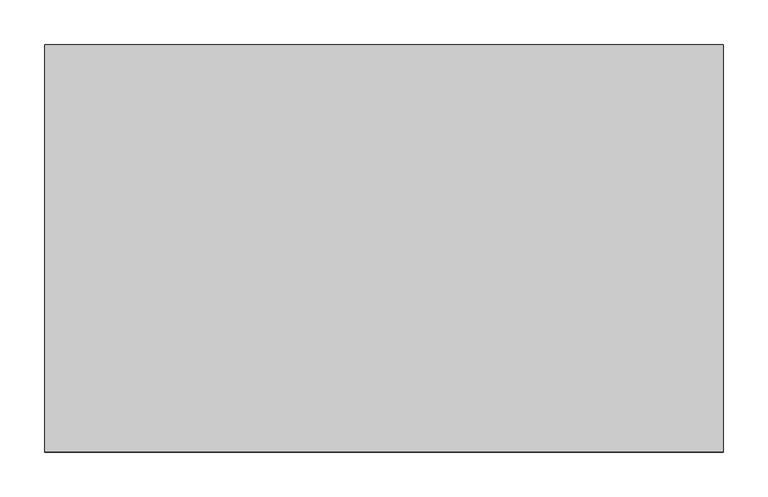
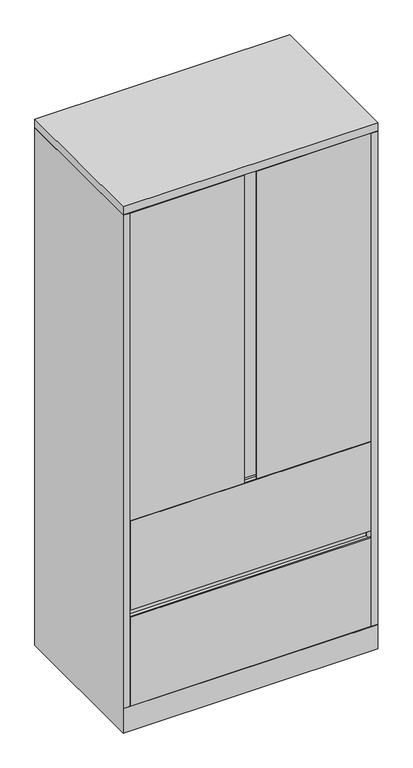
"""IFC4 building model written with IfcOpenShell, lengths in millimetres: furniture geometry, Steelcase - Universal Storage - Cabinet - Combination - Flush Steel : 65 1/2H - 2 Drawers - 18D x 30W."""

import ifcopenshell
import ifcopenshell.guid

model = None  # the IFC model being written
_history = None  # IfcOwnerHistory: only IFC2X3 demands one
_inside = {}  # id of a spatial element -> (the spatial element, [elements in it])
_under = {}  # id of a project, library or spatial element -> (it, [spatial elements below it])
_declared = {}  # id of a project -> (the project, [libraries it declares])
_typed = {}  # id of a type object -> (the type object, [elements of that type])
_made_of = {}  # id of a material, layer set ... -> (it, [elements and type objects made of it])


def new_model(schema):
    """Start an empty IFC model of exactly this schema.

    Asked for "IFC4X3", IfcOpenShell would pick the latest addendum, in which some entities
    have other attributes; the version numbers below select the first issue.
    IFC2X3 requires an IfcOwnerHistory on every rooted entity: one is made here for all.
    """
    global model, _history
    if schema == "IFC4X3":
        model = ifcopenshell.file(schema_version=(4, 3, 0, 0))
    else:
        model = ifcopenshell.file(schema=schema)
    _inside.clear()
    _under.clear()
    _declared.clear()
    _typed.clear()
    _made_of.clear()
    _history = None
    if model.schema == "IFC2X3":
        org = make("IfcOrganization", Name="unknown")
        user = make(
            "IfcPersonAndOrganization",
            ThePerson=make("IfcPerson", FamilyName="unknown"),
            TheOrganization=org,
        )
        app = make(
            "IfcApplication",
            ApplicationDeveloper=org,
            Version="unknown",
            ApplicationFullName="unknown",
            ApplicationIdentifier="unknown",
        )
        _history = make(
            "IfcOwnerHistory",
            OwningUser=user,
            OwningApplication=app,
            ChangeAction="ADDED",
            CreationDate=0,
        )
    return model


def make(cls, **values):
    """One entity of the class cls with the attributes given. An attribute that is None is left unset."""
    return model.create_entity(
        cls, **{name: value for name, value in values.items() if value is not None}
    )


def rooted(cls, **values):
    """An entity with a GlobalId (a new one), such as an element, a storey or a relation."""
    return make(cls, GlobalId=ifcopenshell.guid.new(), OwnerHistory=_history, **values)


def si_unit(unit_type, name, prefix=None):
    """IfcSIUnit, for example si_unit("LENGTHUNIT", "METRE", prefix="MILLI")."""
    return make("IfcSIUnit", UnitType=unit_type, Prefix=prefix, Name=name)


def assignment(units):
    """IfcUnitAssignment: the units of a project."""
    return None if units is None else make("IfcUnitAssignment", Units=units)


def point(xyz):
    """IfcCartesianPoint."""
    return None if xyz is None else make("IfcCartesianPoint", Coordinates=xyz)


def direction(xyz):
    """IfcDirection."""
    return None if xyz is None else make("IfcDirection", DirectionRatios=xyz)


def frame(location, z_axis=None, x_axis=None):
    """IfcAxis2Placement3D, a coordinate frame: its origin and axes. An axis left out is left unset."""
    return make(
        "IfcAxis2Placement3D",
        Location=point(location),
        Axis=direction(z_axis),
        RefDirection=direction(x_axis),
    )


def origin():
    """The frame at (0, 0, 0) with its axes left unset."""
    return frame((0.0, 0.0, 0.0))


def place(relative_to, where):
    """IfcLocalPlacement: puts the frame where relative to a parent placement (None: the world)."""
    return make(
        "IfcLocalPlacement", PlacementRelTo=relative_to, RelativePlacement=where
    )


def context(
    kind, dimensions, precision=None, world=None, true_north=None, identifier=None
):
    """IfcGeometricRepresentationContext, for example the 3D "Model" context."""
    return make(
        "IfcGeometricRepresentationContext",
        ContextIdentifier=identifier,
        ContextType=kind,
        CoordinateSpaceDimension=dimensions,
        Precision=precision,
        WorldCoordinateSystem=world,
        TrueNorth=true_north,
    )


def project(units=None, contexts=None):
    """IfcProject with its units and contexts."""
    return rooted(
        "IfcProject",
        Name="project",
        RepresentationContexts=contexts,
        UnitsInContext=assignment(units),
    )


def spatial(cls, under=None, at=None, **own):
    """A site, building, storey or space (cls), placed at a placement, below another one or the project."""
    s = rooted(cls, ObjectPlacement=at, **own)
    if under is not None:
        _under.setdefault(under.id(), (under, []))[1].append(s)
    return s


def polyline(points):
    """IfcPolyline through the points."""
    return make("IfcPolyline", Points=[point(p) for p in points])


def outline(outer, holes=None, kind="AREA"):
    """IfcArbitraryClosedProfileDef: a profile drawn as a closed curve; with holes, ...WithVoids."""
    if holes is None:
        return make("IfcArbitraryClosedProfileDef", ProfileType=kind, OuterCurve=outer)
    return make(
        "IfcArbitraryProfileDefWithVoids",
        ProfileType=kind,
        OuterCurve=outer,
        InnerCurves=holes,
    )


def extrude(swept, where, along, depth):
    """IfcExtrudedAreaSolid: the profile swept, set in the frame where, extruded along a direction by depth."""
    return make(
        "IfcExtrudedAreaSolid",
        SweptArea=swept,
        Position=where,
        ExtrudedDirection=direction(along),
        Depth=depth,
    )


def faces_of(points, faces, orient=None, outer=None):
    """IfcFace entities. A face is a list of loops; a loop is a list of indices into points, from 0.

    orient and outer hold one flag for each loop. By default every Orientation is true, the
    first loop of a face is its IfcFaceOuterBound and the others are IfcFaceBound.
    """
    made = []
    for i, loops in enumerate(faces):
        bounds = []
        for j, loop in enumerate(loops):
            is_outer = j == 0 if outer is None else outer[i][j]
            bounds.append(
                make(
                    "IfcFaceOuterBound" if is_outer else "IfcFaceBound",
                    Bound=make("IfcPolyLoop", Polygon=[points[k] for k in loop]),
                    Orientation=True if orient is None else orient[i][j],
                )
            )
        made.append(make("IfcFace", Bounds=bounds))
    return made


def faceted_brep(points, faces, orient=None, outer=None, voids=None):
    """IfcFacetedBrep: a solid bounded by flat faces; with voids (closed shells), ...WithVoids."""
    shared = [point(p) for p in points]
    hull = make("IfcClosedShell", CfsFaces=faces_of(shared, faces, orient, outer))
    if voids is None:
        return make("IfcFacetedBrep", Outer=hull)
    return make(
        "IfcFacetedBrepWithVoids",
        Outer=hull,
        Voids=[
            make(cls, CfsFaces=faces_of(shared, fs, o, b)) for cls, fs, o, b in voids
        ],
    )


def shape(context_of_items, identifier, shape_type, items):
    """IfcShapeRepresentation: the items that make up one representation, for example the "Body"."""
    return make(
        "IfcShapeRepresentation",
        ContextOfItems=context_of_items,
        RepresentationIdentifier=identifier,
        RepresentationType=shape_type,
        Items=items,
    )


def source(mapping_origin, context_of_items, identifier, shape_type, items):
    """IfcRepresentationMap: a shape defined once, which mapped items show again and again."""
    return make(
        "IfcRepresentationMap",
        MappingOrigin=mapping_origin,
        MappedRepresentation=shape(context_of_items, identifier, shape_type, items),
    )


def transform(
    local_origin,
    x_axis=None,
    y_axis=None,
    z_axis=None,
    scale=None,
    scale2=None,
    scale3=None,
    uniform=True,
):
    """IfcCartesianTransformationOperator3D, or its non-uniform kind. x_axis, y_axis, z_axis: its Axis1, 2, 3."""
    if uniform:
        return make(
            "IfcCartesianTransformationOperator3D",
            Axis1=direction(x_axis),
            Axis2=direction(y_axis),
            LocalOrigin=point(local_origin),
            Scale=scale,
            Axis3=direction(z_axis),
        )
    return make(
        "IfcCartesianTransformationOperator3DnonUniform",
        Axis1=direction(x_axis),
        Axis2=direction(y_axis),
        LocalOrigin=point(local_origin),
        Scale=scale,
        Axis3=direction(z_axis),
        Scale2=scale2,
        Scale3=scale3,
    )


def mapped(mapping_source, mapping_target):
    """IfcMappedItem: shows the shape of a source again, moved by a transform."""
    return make(
        "IfcMappedItem", MappingSource=mapping_source, MappingTarget=mapping_target
    )


def made_of(thing, what):
    """Note that an element or type object is made of a material, layer set ...; save() writes the relation."""
    if what is not None:
        _made_of.setdefault(what.id(), (what, []))[1].append(thing)
    return thing


def element(
    cls,
    number,
    at=None,
    inside=None,
    cuts=None,
    type_object=None,
    material=None,
    context=None,
    identifier="Body",
    shape_type=None,
    held_by="IfcProductDefinitionShape",
    body=None,
    shapes=None,
    **own,
):
    """One element of the class cls, such as IfcWall. Its Tag is "e" and its number.

    at: its placement. inside: the storey or other place that contains it. cuts: it is an
    opening in that element (IfcRelVoidsElement). A single representation is given by context,
    identifier, shape_type and body (its items); several are given by shapes. held_by: the class
    of the entity that holds the representations. save() writes the other relations.
    """
    e = rooted(cls, Tag="e%d" % number, ObjectPlacement=at, **own)
    if body is not None:
        shapes = [shape(context, identifier, shape_type, body)]
    if shapes is not None:
        e.Representation = make(held_by, Representations=shapes)
    if inside is not None:
        _inside.setdefault(inside.id(), (inside, []))[1].append(e)
    if cuts is not None:
        rooted(
            "IfcRelVoidsElement", RelatingBuildingElement=cuts, RelatedOpeningElement=e
        )
    if type_object is not None:
        _typed.setdefault(type_object.id(), (type_object, []))[1].append(e)
    return made_of(e, material)


def aggregate(whole, parts):
    """IfcRelAggregates: a whole, such as a stair, and the parts it consists of."""
    return rooted("IfcRelAggregates", RelatingObject=whole, RelatedObjects=parts)


def save(model, path):
    """Write the relations noted so far, then the file.

    IfcRelAggregates (storeys below a building ...), IfcRelContainedInSpatialStructure (elements
    in a storey), IfcRelDefinesByType, IfcRelAssociatesMaterial and IfcRelDeclares: one each for
    every whole, place, type object, material and project.
    """
    for whole, parts in _under.values():
        aggregate(whole, parts)
    for where, things in _inside.values():
        rooted(
            "IfcRelContainedInSpatialStructure",
            RelatedElements=things,
            RelatingStructure=where,
        )
    for kind, things in _typed.values():
        rooted("IfcRelDefinesByType", RelatedObjects=things, RelatingType=kind)
    for what, things in _made_of.values():
        rooted("IfcRelAssociatesMaterial", RelatedObjects=things, RelatingMaterial=what)
    for by, libraries in _declared.values():
        rooted("IfcRelDeclares", RelatingContext=by, RelatedDefinitions=libraries)
    model.write(path)


def furniture_2db59cd1(model_context):
    return source(origin(), model_context, "Body", "SolidModel", [
        extrude(outline(polyline([(21.8068168, -431.673866), (741.172, -431.673866), (741.172, -457.2), (400.05, -457.2), (400.05, -452.883482), (413.2189152, -452.883482), (413.2189152, -438.0238781), (361.95, -438.0238781), (361.95, -457.2), (21.8068168, -457.2), (21.8068168, -431.673866)])), frame((0.0, 0.0, 663.956), z_axis=(0.0, 0.0, 1.0), x_axis=(1.0, 0.0, 0.0)), (0.0, 0.0, 1.0), 972.82),
        extrude(outline(polyline([(762.0, 0.0), (762.0, -457.2), (0.0, -457.2), (0.0, 0.0), (762.0, 0.0)])), frame((0.0, 0.0, 1638.2999516), z_axis=(0.0, 0.0, 1.0), x_axis=(1.0, 0.0, 0.0)), (0.0, 0.0, 1.0), 25.4000484),
        extrude(outline(polyline([(-457.2, 358.7750484), (-454.0242491, 358.7750484), (-454.0242491, 349.2500484), (-431.673866, 349.2500484), (-431.673866, 381.0), (-430.1498674, 381.0), (-430.1498674, 349.2500484), (-430.1498674, 77.724), (-457.2, 77.724), (-457.2, 358.7750484)])), frame((20.8280006, 0.0, 0.0), z_axis=(1.0, 0.0, 0.0), x_axis=(0.0, 1.0, 0.0)), (0.0, 0.0, 1.0), 720.3439994),
        extrude(outline(polyline([(736.6000242, -25.4000008), (736.6000242, -430.1498674), (25.4000008, -430.1498674), (25.4000008, -25.4000008), (736.6000242, -25.4000008)])), frame((0.0, 0.0, 358.7750484), z_axis=(0.0, 0.0, 1.0), x_axis=(1.0, 0.0, 0.0)), (0.0, 0.0, 1.0), 22.2249516),
        extrude(outline(polyline([(736.6000242, -25.4000008), (736.6000242, -430.1498674), (25.4000008, -430.1498674), (25.4000008, -25.4000008), (736.6000242, -25.4000008)])), frame((0.0, 0.0, 1268.6030484), z_axis=(0.0, 0.0, 1.0), x_axis=(1.0, 0.0, 0.0)), (0.0, 0.0, 1.0), 22.2249516),
        extrude(outline(polyline([(736.6000242, -25.4000008), (736.6000242, -430.1498674), (25.4000008, -430.1498674), (25.4000008, -25.4000008), (736.6000242, -25.4000008)])), frame((0.0, 0.0, 965.3270484), z_axis=(0.0, 0.0, 1.0), x_axis=(1.0, 0.0, 0.0)), (0.0, 0.0, 1.0), 22.2249516),
        extrude(outline(polyline([(-457.2, 662.0510484), (-454.0242491, 662.0510484), (-454.0242491, 652.5260484), (-431.673866, 652.5260484), (-431.673866, 684.276), (-430.1498674, 684.276), (-430.1498674, 652.5260484), (-430.1498674, 381.0), (-457.2, 381.0), (-457.2, 662.0510484)])), frame((20.8280006, 0.0, 0.0), z_axis=(1.0, 0.0, 0.0), x_axis=(0.0, 1.0, 0.0)), (0.0, 0.0, 1.0), 720.3439994),
        extrude(outline(polyline([(736.6000242, -25.4000008), (736.6000242, -430.1498674), (25.4000008, -430.1498674), (25.4000008, -25.4000008), (736.6000242, -25.4000008)])), frame((0.0, 0.0, 662.0510484), z_axis=(0.0, 0.0, 1.0), x_axis=(1.0, 0.0, 0.0)), (0.0, 0.0, 1.0), 22.2249516),
        faceted_brep([(762.0, 0.0, 0.0), (762.0, -457.2, 0.0), (0.0, -457.2, 0.0), (0.0, 0.0, 0.0), (0.0, 0.0, 1636.776), (762.0, 0.0, 1636.776), (0.0, -457.2, 76.2), (0.0, -457.2, 77.724), (0.0, -457.2, 1636.776), (762.0, -457.2, 76.2), (762.0, -457.2, 1636.776), (762.0, -457.2, 77.724), (736.6000242, -25.4000008, 1636.776), (736.6000242, -430.1498674, 1636.776), (741.172, -430.1498674, 1636.776), (741.172, -431.6738781, 1636.776), (742.696, -431.6738781, 1636.776), (742.696, -457.2, 1636.776), (19.304, -457.2, 1636.776), (19.304, -431.673866, 1636.776), (20.8280006, -431.673866, 1636.776), (20.8280006, -430.1498674, 1636.776), (25.4000008, -430.1498674, 1636.776), (25.4000008, -25.4000008, 1636.776), (19.304, -457.2, 77.724), (19.304, -437.896, 77.724), (742.696, -457.2, 77.724), (742.696, -437.7698418, 77.724), (736.6000242, -25.4000008, 77.724), (736.6000242, -430.1498674, 77.724), (741.172, -430.1498674, 77.724), (741.172, -431.6738781, 77.724), (742.696, -431.6738781, 77.724), (19.304, -431.673866, 77.724), (20.8280006, -431.673866, 77.724), (20.8280006, -430.1498674, 77.724), (25.4000008, -430.1498674, 77.724), (25.4000008, -25.4000008, 77.724), (25.526134, -431.673866, 77.724), (736.6000242, -431.673866, 77.724)], [[[0, 1, 2, 3]], [[0, 3, 4, 5]], [[4, 3, 2, 6, 7, 8]], [[2, 1, 9, 6]], [[1, 0, 5, 10, 11, 9]], [[12, 13, 14, 15, 16, 17, 10, 5, 4, 8, 18, 19, 20, 21, 22, 23]], [[24, 7, 25]], [[11, 26, 27]], [[13, 12, 28, 29]], [[14, 13, 29, 30]], [[15, 14, 30, 31]], [[16, 15, 31, 32]], [[17, 16, 32, 27, 26]], [[10, 17, 26, 11]], [[18, 8, 7, 24]], [[19, 18, 24, 25, 33]], [[20, 19, 33, 34]], [[21, 20, 34, 35]], [[22, 21, 35, 36]], [[23, 22, 36, 37]], [[12, 23, 37, 28]], [[38, 39, 27, 32, 31, 30, 29, 28, 37, 36, 35, 34, 33, 25]], [[7, 6, 38, 25]], [[39, 38, 6, 9]], [[39, 9, 11, 27]]]),
    ])


if __name__ == "__main__":
    model = new_model("IFC4")
    model_context = context("Model", 3, world=origin())
    ifc_project = project(units=[si_unit("LENGTHUNIT", "METRE", prefix="MILLI")], contexts=[model_context])
    site = spatial("IfcSite", under=ifc_project)
    building = spatial("IfcBuilding", under=site)
    placement = place(None, origin())
    furniture_shape = furniture_2db59cd1(model_context)
    element("IfcFurniture", 1, ObjectType="Steelcase - Universal Storage - Cabinet - Combination - Flush Steel : 65 1/2H - 2 Drawers - 18D x 30W", at=placement, inside=building, context=model_context, shape_type="MappedRepresentation", body=[
        mapped(furniture_shape, transform((0.0, 0.0, 0.0), x_axis=(1.0, 0.0, 0.0), y_axis=(0.0, 1.0, 0.0), z_axis=(0.0, 0.0, 1.0))),
    ])
    save(model, "model.ifc")
